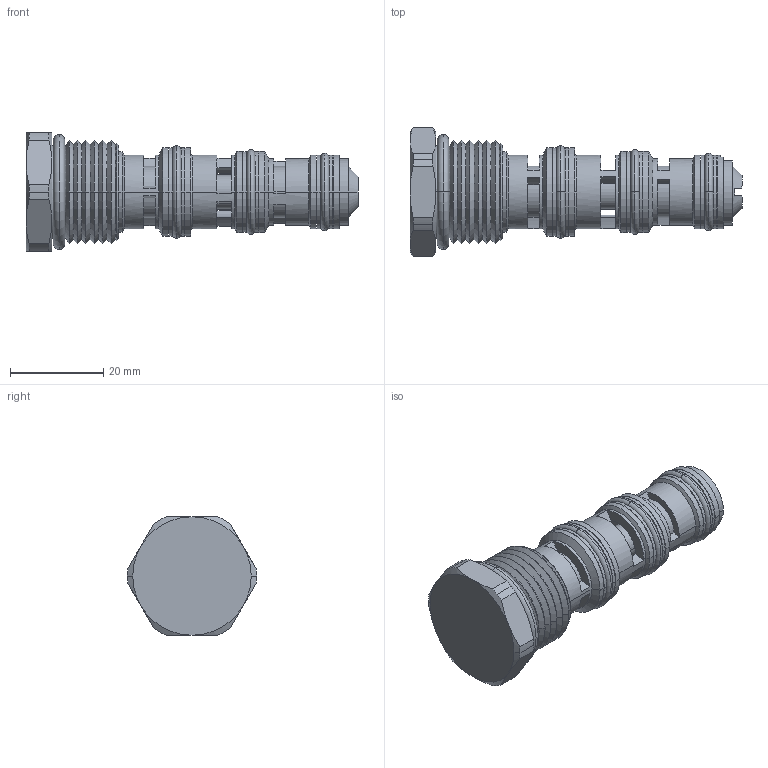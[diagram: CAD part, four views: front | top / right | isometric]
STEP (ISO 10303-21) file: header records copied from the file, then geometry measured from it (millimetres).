
FILE_DESCRIPTION((''),'2;1');
FILE_NAME('U:\Solid model CD\Solid model full\Mechanical\STEP\DGFDH00-3D Full.stp','2008-07-29T09:25:13',('Dan'),(''),'Autodesk Inventor 9','Autodesk Inventor 9','');
FILE_SCHEMA(('AUTOMOTIVE_DESIGN { 1 0 10303 214 1 1 1 1 }'));
Length unit declared in the file: inch
Products named in the file (13): DGFDH00-3D Full; DGFDH00-3D Full1; DGFDH00-3D Full2; DGFDH00-3D Full3; DGFDH00-3D Full4; DGFDH00-3D Full5; DGFDH00-3D Full6; DGFDH00-3D Full7; DGFDH00-3D Full8; DGFDH00-3D Full9; DGFDH00-3D Full10; DGFDH00-3D Full11; DGFDH00-3D Full12
Assembly tree (12 placements, depth 2):
  DGFDH00-3D Full
    DGFDH00-3D Full1
    DGFDH00-3D Full2
    DGFDH00-3D Full3
    DGFDH00-3D Full4
    DGFDH00-3D Full5
    DGFDH00-3D Full6
    DGFDH00-3D Full7
    DGFDH00-3D Full8
    DGFDH00-3D Full9
    DGFDH00-3D Full10
    DGFDH00-3D Full11
    DGFDH00-3D Full12
Bounding box: 71.2 x 27.69 x 25.4 mm (x, y, z)
Volume: 16942.4 mm3; surface area: 10156.2 mm2
Topology: 12 solids, 12 shells, 270 faces, 642 edges, 398 vertices
Faces by surface type: cylinder 100, plane 56, cone 54, bspline 40, torus 20
Entity records: 9354 total; most frequent: CARTESIAN_POINT 2620, DIRECTION 1512, ORIENTED_EDGE 1284, AXIS2_PLACEMENT_3D 658, EDGE_CURVE 642, CIRCLE 403, VERTEX_POINT 398, EDGE_LOOP 300
